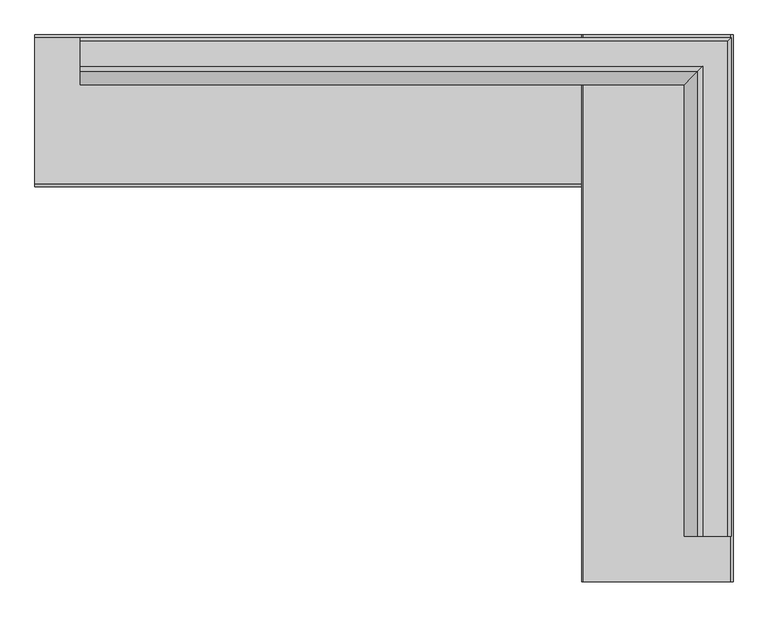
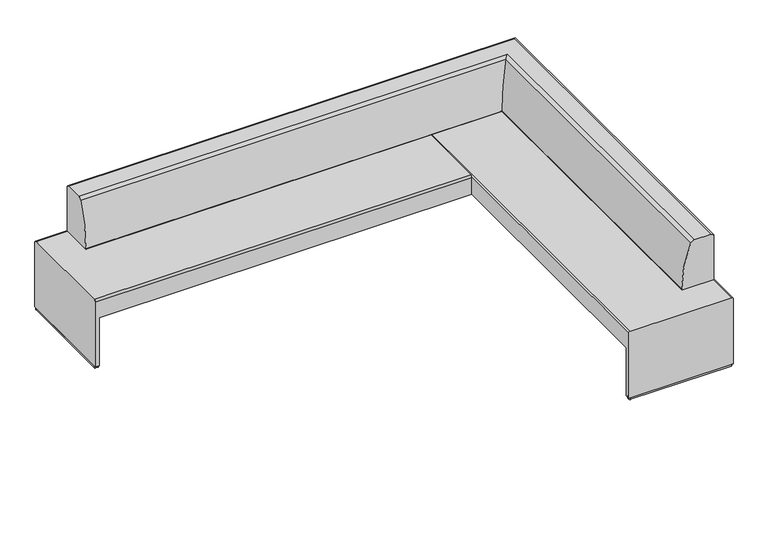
"""IFC4 building model written with IfcOpenShell, lengths in millimetres: furniture geometry, Steelcase Coalesse - Together - Seating - Bench - Right Corner : 8in Back Offset - 96.5D x 123.25W."""

from ifc_helpers import new_model, si_unit, point, frame, frame_2d, origin, origin_with_axes, place, context, project, spatial, polyline, circle_curve, ellipse_curve, trimmed, segment, composite_curve, outline, extrude, source, transform, mapped, element, save
from ifc_brep_helpers import plane_surface, cylinder_surface, advanced_brep


def furniture_43bb639a(model_context):
    return source(origin(), model_context, "Body", "SolidModel", [
        advanced_brep(
        [(774.5287475, 2999.7334745, 461.0687949), (764.3687475, 2999.7334745, 471.2287949), (103.5774354, 2999.7334745, 471.2287949), (95.2070699, 2999.7334745, 462.8584293), (95.2070699, 2999.7334745, 12.7976677), (774.5287475, 2999.7334745, 12.7976677), (95.2070699, 5450.8334745, 343.3718099), (95.2070699, 5450.8334745, 462.8584293), (103.5774354, 5450.8334745, 471.2287949), (764.3687475, 5450.8334745, 471.2287949), (774.5287475, 5450.8334745, 461.0687949), (774.5287475, 5450.8334745, 343.3718099), (774.5287475, 3025.7251879, 343.3718099), (432.8174347, 3070.1341192, 343.3718099), (95.2070699, 3025.7251879, 343.3718099), (774.5287475, 3025.7251879, 12.7976677), (95.2070699, 3025.7251879, 12.7976677), (432.8174347, 3070.1341192, 12.7976677)],
        [
            (0, 1, circle_curve(frame((764.3687475, 2999.7334745, 461.0687949), z_axis=(0.0, -1.0, 0.0), x_axis=(-1.0, 0.0, 0.0)), 10.16)),
            (1, 2),
            (2, 3, circle_curve(frame((103.5774354, 2999.7334745, 462.8584293), z_axis=(0.0, -1.0, 0.0), x_axis=(-1.0, 0.0, 0.0)), 8.3703656)),
            (3, 4),
            (4, 5),
            (5, 0),
            (6, 7),
            (7, 8, circle_curve(frame((103.5774354, 5450.8334745, 462.8584293), z_axis=(0.0, 1.0, 0.0), x_axis=(-1.0, 0.0, 0.0)), 8.3703656)),
            (8, 9),
            (9, 10, circle_curve(frame((764.3687475, 5450.8334745, 461.0687949), z_axis=(0.0, 1.0, 0.0), x_axis=(-1.0, 0.0, 0.0)), 10.16)),
            (10, 11),
            (11, 6),
            (11, 12),
            (12, 13),
            (13, 14),
            (14, 6),
            (5, 15),
            (15, 12),
            (10, 0),
            (9, 1),
            (8, 2),
            (7, 3),
            (14, 16),
            (16, 4),
            (17, 15),
            (16, 17),
            (13, 17),
        ],
        [
            plane_surface(frame((733.0421326, 2999.7334745, 343.3718099), z_axis=(0.0, -1.0, 0.0), x_axis=(1.0, 0.0, 0.0))),
            plane_surface(frame((733.0421326, 5450.8334745, 343.3718099), z_axis=(0.0, 1.0, 0.0), x_axis=(-1.0, 0.0, 0.0))),
            plane_surface(frame((95.2070699, 2999.7334745, 343.3718099), z_axis=(0.0, 0.0, -1.0), x_axis=(0.0, 1.0, 0.0))),
            plane_surface(frame((774.5287475, 2999.7334745, 343.3718099), z_axis=(1.0, 0.0, 0.0), x_axis=(0.0, 1.0, 0.0))),
            cylinder_surface(frame((764.3687475, 5450.8334745, 461.0687949), z_axis=(0.0, -1.0, 0.0), x_axis=(-1.0, 0.0, 0.0)), 10.16),
            plane_surface(frame((764.3687475, 2999.7334745, 471.2287949), z_axis=(0.0, 0.0, 1.0), x_axis=(0.0, 1.0, 0.0))),
            cylinder_surface(frame((103.5774354, 5450.8334745, 462.8584293), z_axis=(0.0, -1.0, 0.0), x_axis=(-1.0, 0.0, 0.0)), 8.3703656),
            plane_surface(frame((95.2070699, 2999.7334745, 462.8584293), z_axis=(-1.0, 0.0, 0.0), x_axis=(0.0, 1.0, 0.0))),
            plane_surface(frame((432.8174347, 3070.1341192, 12.7976677), z_axis=(0.0, 0.0, -1.0000000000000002), x_axis=(0.9914594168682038, 0.13041558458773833, 0.0))),
            plane_surface(frame((432.8174347, 3070.1341192, 343.3718099), z_axis=(-0.13041558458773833, 0.9914594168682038, 0.0), x_axis=(0.0, 0.0, -1.0))),
            plane_surface(frame((774.5287475, 3025.7251879, 343.3718099), z_axis=(0.12887659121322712, 0.991660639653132, 0.0), x_axis=(0.0, 0.0, -1.0))),
        ],
        [
            (0, [[1, 2, 3, 4, 5, 6]]),
            (1, [[7, 8, 9, 10, 11, 12]]),
            (2, [[-12, 13, 14, 15, 16]]),
            (3, [[-6, 17, 18, -13, -11, 19]]),
            (4, [[-1, -19, -10, 20]]),
            (5, [[-2, -20, -9, 21]]),
            (6, [[-3, -21, -8, 22]]),
            (7, [[-4, -22, -7, -16, 23, 24]]),
            (8, [[25, -17, -5, -24, 26]]),
            (9, [[-26, -23, -15, 27]]),
            (10, [[-25, -27, -14, -18]]),
        ],
    ),
        advanced_brep(
        [(-2356.0212525, 4783.2670813, 471.2287949), (-2356.0212525, 5438.3536785, 471.2287949), (-2356.0212525, 5451.0536785, 458.5287949), (-2356.0212525, 5451.0536785, 12.7976677), (-2356.0212525, 4770.5670813, 12.7976677), (-2356.0212525, 4770.5670813, 458.5287949), (95.2070699, 4783.2670813, 471.2287949), (95.2070699, 4770.5670813, 458.5287949), (95.2070699, 4770.5670813, 343.3718099), (95.2070699, 5451.0536785, 343.3718099), (95.2070699, 5451.0536785, 458.5287949), (95.2070699, 5438.3536785, 471.2287949), (-2330.1515245, 5451.0536785, 343.3718099), (-2330.1525858, 5451.0536785, 12.7976677), (-2329.8455542, 4770.5670813, 343.3718099), (-2285.5129721, 5108.4198031, 343.3718099), (-2329.8444726, 4770.5670813, 12.7976677), (-2285.5129721, 5108.4198031, 12.7976677)],
        [
            (0, 1),
            (1, 2, circle_curve(frame((-2356.0212525, 5438.3536785, 458.5287949), z_axis=(-1.0, 0.0, 0.0), x_axis=(0.0, 1.0, 0.0)), 12.7)),
            (2, 3),
            (3, 4),
            (4, 5),
            (5, 0, circle_curve(frame((-2356.0212525, 4783.2670813, 458.5287949), z_axis=(-1.0, 0.0, 0.0), x_axis=(0.0, 1.0, 0.0)), 12.7)),
            (6, 7, circle_curve(frame((95.2070699, 4783.2670813, 458.5287949), z_axis=(1.0, 0.0, 0.0), x_axis=(0.0, 1.0, 0.0)), 12.7)),
            (7, 8),
            (8, 9),
            (9, 10),
            (10, 11, circle_curve(frame((95.2070699, 5438.3536785, 458.5287949), z_axis=(1.0, 0.0, 0.0), x_axis=(0.0, 1.0, 0.0)), 12.7)),
            (11, 6),
            (0, 6),
            (11, 1),
            (10, 2),
            (9, 12),
            (12, 13),
            (13, 3),
            (8, 14),
            (14, 15),
            (15, 12),
            (4, 16),
            (16, 14),
            (7, 5),
            (17, 16),
            (13, 17),
            (15, 17),
        ],
        [
            plane_surface(frame((-2356.0212525, 5450.8334745, 471.2287949), z_axis=(-1.0, 0.0, 0.0), x_axis=(0.0, 1.0, 0.0))),
            plane_surface(frame((95.2070699, 5450.8334745, 471.2287949), z_axis=(1.0, 0.0, 0.0), x_axis=(0.0, -1.0, 0.0))),
            plane_surface(frame((-2356.0212525, 4783.2670813, 471.2287949), z_axis=(0.0, 0.0, 1.0), x_axis=(1.0, 0.0, 0.0))),
            cylinder_surface(frame((95.2070699, 5438.3536785, 458.5287949), z_axis=(-1.0, 0.0, 0.0), x_axis=(0.0, 1.0, 0.0)), 12.7),
            plane_surface(frame((-2356.0212525, 5451.0536785, 458.5287949), z_axis=(0.0, 1.0, 0.0), x_axis=(1.0, 0.0, 0.0))),
            plane_surface(frame((-2356.0212525, 5451.0536785, 343.3718099), z_axis=(0.0, 0.0, -1.0), x_axis=(1.0, 0.0, 0.0))),
            plane_surface(frame((-2356.0212525, 4770.5670813, 343.3718099), z_axis=(0.0, -1.0, 0.0), x_axis=(1.0, 0.0, 0.0))),
            cylinder_surface(frame((95.2070699, 4783.2670813, 458.5287949), z_axis=(-1.0, 0.0, 0.0), x_axis=(0.0, 1.0, 0.0)), 12.7),
            plane_surface(frame((-2330.1525858, 5451.0618248, 12.7976677), z_axis=(0.0, 0.0, -1.0), x_axis=(0.12918886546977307, -0.9916200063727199, 0.0))),
            plane_surface(frame((-2285.5129721, 5108.4198031, 343.3718099), z_axis=(0.9916200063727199, 0.12918886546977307, 0.0), x_axis=(0.0, 0.0, -1.0))),
            plane_surface(frame((-2329.8444726, 4770.5753245, 343.3718099), z_axis=(0.9915004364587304, -0.1301033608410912, 0.0), x_axis=(0.0, 0.0, -1.0))),
        ],
        [
            (0, [[1, 2, 3, 4, 5, 6]]),
            (1, [[7, 8, 9, 10, 11, 12]]),
            (2, [[-1, 13, -12, 14]]),
            (3, [[-2, -14, -11, 15]]),
            (4, [[-3, -15, -10, 16, 17, 18]]),
            (5, [[-9, 19, 20, 21, -16]]),
            (6, [[-5, 22, 23, -19, -8, 24]]),
            (7, [[-6, -24, -7, -13]]),
            (8, [[25, -22, -4, -18, 26]]),
            (9, [[-26, -17, -21, 27]]),
            (10, [[-25, -27, -20, -23]]),
        ],
    ),
        extrude(outline(composite_curve([segment(polyline([(-2285.9689643, 5113.2843855), (-2330.9693515, 4782.1665875)]), True, "CONTINUOUS"), segment(trimmed(circle_curve(frame_2d((-2337.2615092, 4783.0217198)), 6.35), [point((-2330.9693515, 4782.1665875))], [point((-2337.2666959, 4776.6717219))], False, "CARTESIAN"), True, "CONTINUOUS"), segment(polyline([(-2337.2666959, 4776.6717219), (-2349.7239607, 4776.6818969)]), True, "CONTINUOUS"), segment(trimmed(circle_curve(frame_2d((-2349.718774, 4783.0318948)), 6.35), [point((-2349.7239607, 4776.6818969))], [point((-2356.0687719, 4783.0370815))], False, "CARTESIAN"), True, "CONTINUOUS"), segment(polyline([(-2356.0687719, 4783.0370815), (-2355.5332557, 5438.6681616)]), True, "CONTINUOUS"), segment(trimmed(circle_curve(frame_2d((-2349.1832578, 5438.6629749)), 6.35), [point((-2355.5332557, 5438.6681616))], [point((-2349.1780712, 5445.0129728))], False, "CARTESIAN"), True, "CONTINUOUS"), segment(polyline([(-2349.1780712, 5445.0129728), (-2336.6550538, 5445.0027441)]), True, "CONTINUOUS"), segment(trimmed(circle_curve(frame_2d((-2336.6607966, 5437.9717942)), 7.0309522), [point((-2336.6550538, 5445.0027441))], [point((-2329.6923843, 5438.9074858))], False, "CARTESIAN"), True, "CONTINUOUS"), segment(polyline([(-2329.6923843, 5438.9074858), (-2285.9689643, 5113.2843855)]), True, "CONTINUOUS")], self_intersect=False)), origin_with_axes(), (0.0, 0.0, 1.0), 12.7976677),
        extrude(outline(composite_curve([segment(polyline([(437.4499039, 5381.2236386), (106.2954602, 5425.9535555)]), True, "CONTINUOUS"), segment(trimmed(circle_curve(frame_2d((107.1454529, 5432.2464096)), 6.35), [point((106.2954602, 5425.9535555))], [point((100.7954529, 5432.2464096))], False, "CARTESIAN"), True, "CONTINUOUS"), segment(polyline([(100.7954529, 5432.2464096), (100.7954529, 5444.7036785)]), True, "CONTINUOUS"), segment(trimmed(circle_curve(frame_2d((107.1454529, 5444.7036785)), 6.35), [point((100.7954529, 5444.7036785))], [point((107.1454529, 5451.0536785))], False, "CARTESIAN"), True, "CONTINUOUS"), segment(polyline([(107.1454529, 5451.0536785), (762.7767517, 5451.0536785)]), True, "CONTINUOUS"), segment(trimmed(circle_curve(frame_2d((762.7767517, 5444.7036785)), 6.35), [point((762.7767517, 5451.0536785))], [point((769.1267517, 5444.7036785))], False, "CARTESIAN"), True, "CONTINUOUS"), segment(polyline([(769.1267517, 5444.7036785), (769.1267517, 5432.180657)]), True, "CONTINUOUS"), segment(trimmed(circle_curve(frame_2d((762.0957995, 5432.180657)), 7.0309522), [point((769.1267517, 5432.180657))], [point((763.0371826, 5425.2130112))], False, "CARTESIAN"), True, "CONTINUOUS"), segment(polyline([(763.0371826, 5425.2130112), (437.4499039, 5381.2236386)]), True, "CONTINUOUS")], self_intersect=False)), origin_with_axes(), (0.0, 0.0, 1.0), 12.7976677),
        extrude(outline(composite_curve([segment(polyline([(437.4499039, 3070.4466001), (763.0371826, 3026.4572274)]), True, "CONTINUOUS"), segment(trimmed(circle_curve(frame_2d((762.0957995, 3019.4895817)), 7.0309522), [point((763.0371826, 3026.4572274))], [point((769.1267517, 3019.4895817))], False, "CARTESIAN"), True, "CONTINUOUS"), segment(polyline([(769.1267517, 3019.4895817), (769.1267517, 3006.9665601)]), True, "CONTINUOUS"), segment(trimmed(circle_curve(frame_2d((762.7767517, 3006.9665601)), 6.35), [point((769.1267517, 3006.9665601))], [point((762.7767517, 3000.6165601))], False, "CARTESIAN"), True, "CONTINUOUS"), segment(polyline([(762.7767517, 3000.6165601), (107.1454529, 3000.6165601)]), True, "CONTINUOUS"), segment(trimmed(circle_curve(frame_2d((107.1454529, 3006.9665601)), 6.35), [point((107.1454529, 3000.6165601))], [point((100.7954529, 3006.9665601))], False, "CARTESIAN"), True, "CONTINUOUS"), segment(polyline([(100.7954529, 3006.9665601), (100.7954529, 3019.4238291)]), True, "CONTINUOUS"), segment(trimmed(circle_curve(frame_2d((107.1454529, 3019.4238291)), 6.35), [point((100.7954529, 3019.4238291))], [point((106.2954602, 3025.7166831))], False, "CARTESIAN"), True, "CONTINUOUS"), segment(polyline([(106.2954602, 3025.7166831), (437.4499039, 3070.4466001)]), True, "CONTINUOUS")], self_intersect=False)), origin_with_axes(), (0.0, 0.0, 1.0), 12.7976677),
        extrude(outline(polyline([(432.8174347, 5380.6530339), (95.2070699, 5425.0619651), (95.2070699, 5451.0536785), (774.6302917, 5451.0536785), (774.6302917, 5425.0751618), (432.8174347, 5380.6530339)])), frame((0.0, 0.0, 12.7976677), z_axis=(0.0, 0.0, 1.0), x_axis=(1.0, 0.0, 0.0)), (0.0, 0.0, 1.0), 330.5741422),
        advanced_brep(
        [(637.9650651, 3202.9334745, 789.6908243), (617.0761552, 3202.9334745, 775.9296487), (556.0897813, 3202.9334745, 477.5628851), (562.4397614, 3202.9334745, 471.2287949), (765.057783, 3202.9334745, 471.2287949), (765.819783, 3202.9334745, 471.9907949), (765.819783, 3202.9334745, 774.0501793), (750.179138, 3202.9334745, 789.6908243), (637.9650651, 5309.7765091, 789.6908243), (617.0761552, 5288.8875992, 775.9296487), (556.0897813, 5227.9012254, 477.5628851), (562.4397614, 5234.2512054, 471.2287949), (-2152.8212525, 5234.2512054, 471.2287949), (-2152.8212525, 5436.869227, 471.2287949), (765.057783, 5436.869227, 471.2287949), (765.819783, 5437.631227, 471.9907949), (765.819783, 5437.631227, 774.0501793), (750.179138, 5421.990582, 789.6908243), (-2152.8212525, 5421.990582, 789.6908243), (-2152.8212525, 5309.7765091, 789.6908243), (-2152.8212525, 5437.631227, 774.0501793), (-2152.8212525, 5437.631227, 471.9907949), (-2152.8212525, 5227.9012254, 477.5628851), (-2152.8212525, 5288.8875992, 775.9296487)],
        [
            (0, 1, circle_curve(frame((637.9650651, 3202.9334745, 766.9559749), z_axis=(0.0, -1.0, 0.0), x_axis=(-1.0, 0.0, 0.0)), 22.7348495)),
            (1, 2, circle_curve(frame((1307.2331615, 3202.9334745, 479.4448666), z_axis=(0.0, -1.0, 0.0), x_axis=(-1.0, 0.0, 0.0)), 751.1457378)),
            (2, 3, circle_curve(frame((562.4397614, 3202.9334745, 477.5787949), z_axis=(0.0, -1.0, 0.0), x_axis=(-1.0, 0.0, 0.0)), 6.35)),
            (3, 4),
            (4, 5, circle_curve(frame((765.057783, 3202.9334745, 471.9907949), z_axis=(0.0, -1.0, 0.0), x_axis=(-1.0, 0.0, 0.0)), 0.762)),
            (5, 6),
            (6, 7, circle_curve(frame((750.179138, 3202.9334745, 774.0501793), z_axis=(0.0, -1.0, 0.0), x_axis=(-1.0, 0.0, 0.0)), 15.6406451)),
            (7, 0),
            (0, 8),
            (8, 9, ellipse_curve(frame((637.9650651, 5309.7765091, 766.9559749), z_axis=(0.7071067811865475, -0.7071067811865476, 0.0), x_axis=(-0.7071067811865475, -0.7071067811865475, 0.0)), 32.1519324, 22.7348495)),
            (9, 1),
            (9, 10, ellipse_curve(frame((1307.2331615, 5979.0446055, 479.4448666), z_axis=(0.7071067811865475, -0.7071067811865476, 0.0), x_axis=(-0.7071067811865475, -0.7071067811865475, 0.0)), 1062.2804897, 751.1457378)),
            (10, 2),
            (10, 11, ellipse_curve(frame((562.4397614, 5234.2512054, 477.5787949), z_axis=(0.7071067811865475, -0.7071067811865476, 0.0), x_axis=(-0.7071067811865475, -0.7071067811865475, 0.0)), 8.9802561, 6.35)),
            (11, 3),
            (11, 12),
            (12, 13),
            (13, 14),
            (14, 4),
            (14, 15, ellipse_curve(frame((765.057783, 5436.869227, 471.9907949), z_axis=(0.7071067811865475, -0.7071067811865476, 0.0), x_axis=(-0.7071067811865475, -0.7071067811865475, 0.0)), 1.0776307, 0.762)),
            (15, 5),
            (15, 16),
            (16, 6),
            (16, 17, ellipse_curve(frame((750.179138, 5421.990582, 774.0501793), z_axis=(0.7071067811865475, -0.7071067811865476, 0.0), x_axis=(-0.7071067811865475, -0.7071067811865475, 0.0)), 22.1192124, 15.6406451)),
            (17, 7),
            (17, 18),
            (18, 19),
            (19, 8),
            (18, 20, circle_curve(frame((-2152.8212525, 5421.990582, 774.0501793), z_axis=(-1.0, 0.0, 0.0), x_axis=(0.0, -1.0, 0.0)), 15.6406451)),
            (20, 21),
            (21, 13, circle_curve(frame((-2152.8212525, 5436.869227, 471.9907949), z_axis=(-1.0, 0.0, 0.0), x_axis=(0.0, -1.0, 0.0)), 0.762)),
            (12, 22, circle_curve(frame((-2152.8212525, 5234.2512054, 477.5787949), z_axis=(-1.0, 0.0, 0.0), x_axis=(0.0, -1.0, 0.0)), 6.35)),
            (22, 23, circle_curve(frame((-2152.8212525, 5979.0446055, 479.4448666), z_axis=(-1.0, 0.0, 0.0), x_axis=(0.0, -1.0, 0.0)), 751.1457378)),
            (23, 19, circle_curve(frame((-2152.8212525, 5309.7765091, 766.9559749), z_axis=(-1.0, 0.0, 0.0), x_axis=(0.0, -1.0, 0.0)), 22.7348495)),
            (23, 9),
            (22, 10),
            (21, 15),
            (20, 16),
        ],
        [
            plane_surface(frame((555.2553454, 3202.9334745, 0.0), z_axis=(0.0, -1.0, 0.0), x_axis=(0.0, 0.0, 1.0))),
            cylinder_surface(frame((637.9650651, 3202.9334745, 766.9559749), z_axis=(0.0, -1.0, 0.0), x_axis=(-1.0, 0.0, 0.0)), 22.7348495),
            cylinder_surface(frame((1307.2331615, 3202.9334745, 479.4448666), z_axis=(0.0, -1.0, 0.0), x_axis=(-1.0, 0.0, 0.0)), 751.1457378),
            cylinder_surface(frame((562.4397614, 3202.9334745, 477.5787949), z_axis=(0.0, -1.0, 0.0), x_axis=(-1.0, 0.0, 0.0)), 6.35),
            plane_surface(frame((562.4397614, 3202.9334745, 471.2287949), z_axis=(0.0, 0.0, -1.0), x_axis=(0.0, 1.0, 0.0))),
            cylinder_surface(frame((765.057783, 3202.9334745, 471.9907949), z_axis=(0.0, -1.0, 0.0), x_axis=(-1.0, 0.0, 0.0)), 0.762),
            plane_surface(frame((765.819783, 3202.9334745, 471.9907949), z_axis=(1.0, 0.0, 0.0), x_axis=(0.0, 1.0, 0.0))),
            cylinder_surface(frame((750.179138, 3202.9334745, 774.0501793), z_axis=(0.0, -1.0, 0.0), x_axis=(-1.0, 0.0, 0.0)), 15.6406451),
            plane_surface(frame((750.179138, 3202.9334745, 789.6908243), z_axis=(0.0, 0.0, 1.0), x_axis=(0.0, 1.0, 0.0))),
            plane_surface(frame((-2152.8212525, 5227.0667894, 0.0), z_axis=(-1.0, 0.0, 0.0), x_axis=(0.0, 0.0, 1.0))),
            cylinder_surface(frame((555.2553454, 5309.7765091, 766.9559749), z_axis=(1.0, 0.0, 0.0), x_axis=(0.0, -1.0, 0.0)), 22.7348495),
            cylinder_surface(frame((555.2553454, 5979.0446055, 479.4448666), z_axis=(1.0, 0.0, 0.0), x_axis=(0.0, -1.0, 0.0)), 751.1457378),
            cylinder_surface(frame((555.2553454, 5234.2512054, 477.5787949), z_axis=(1.0, 0.0, 0.0), x_axis=(0.0, -1.0, 0.0)), 6.35),
            cylinder_surface(frame((555.2553454, 5436.869227, 471.9907949), z_axis=(1.0, 0.0, 0.0), x_axis=(0.0, -1.0, 0.0)), 0.762),
            plane_surface(frame((765.819783, 5437.631227, 471.9907949), z_axis=(0.0, 1.0, 0.0), x_axis=(-1.0, 0.0, 0.0))),
            cylinder_surface(frame((555.2553454, 5421.990582, 774.0501793), z_axis=(1.0, 0.0, 0.0), x_axis=(0.0, -1.0, 0.0)), 15.6406451),
        ],
        [
            (0, [[1, 2, 3, 4, 5, 6, 7, 8]]),
            (1, [[-1, 9, 10, 11]]),
            (2, [[-2, -11, 12, 13]]),
            (3, [[-3, -13, 14, 15]]),
            (4, [[-4, -15, 16, 17, 18, 19]]),
            (5, [[-5, -19, 20, 21]]),
            (6, [[-6, -21, 22, 23]]),
            (7, [[-7, -23, 24, 25]]),
            (8, [[-8, -25, 26, 27, 28, -9]]),
            (9, [[-27, 29, 30, 31, -17, 32, 33, 34]]),
            (10, [[-10, -28, -34, 35]]),
            (11, [[-12, -35, -33, 36]]),
            (12, [[-14, -36, -32, -16]]),
            (13, [[-20, -18, -31, 37]]),
            (14, [[-22, -37, -30, 38]]),
            (15, [[-24, -38, -29, -26]]),
        ],
    ),
    ])


if __name__ == "__main__":
    model = new_model("IFC4")
    model_context = context("Model", 3, world=origin())
    ifc_project = project(units=[si_unit("LENGTHUNIT", "METRE", prefix="MILLI")], contexts=[model_context])
    site = spatial("IfcSite", under=ifc_project)
    building = spatial("IfcBuilding", under=site)
    placement = place(None, origin())
    furniture_shape = furniture_43bb639a(model_context)
    element("IfcFurniture", 1, ObjectType="Steelcase Coalesse - Together - Seating - Bench - Right Corner : 8in Back Offset - 96.5D x 123.25W", at=placement, inside=building, context=model_context, shape_type="MappedRepresentation", body=[
        mapped(furniture_shape, transform((0.0, 0.0, 0.0), x_axis=(1.0, 0.0, 0.0), y_axis=(0.0, 1.0, 0.0), z_axis=(0.0, 0.0, 1.0))),
    ])
    save(model, "model.ifc")
